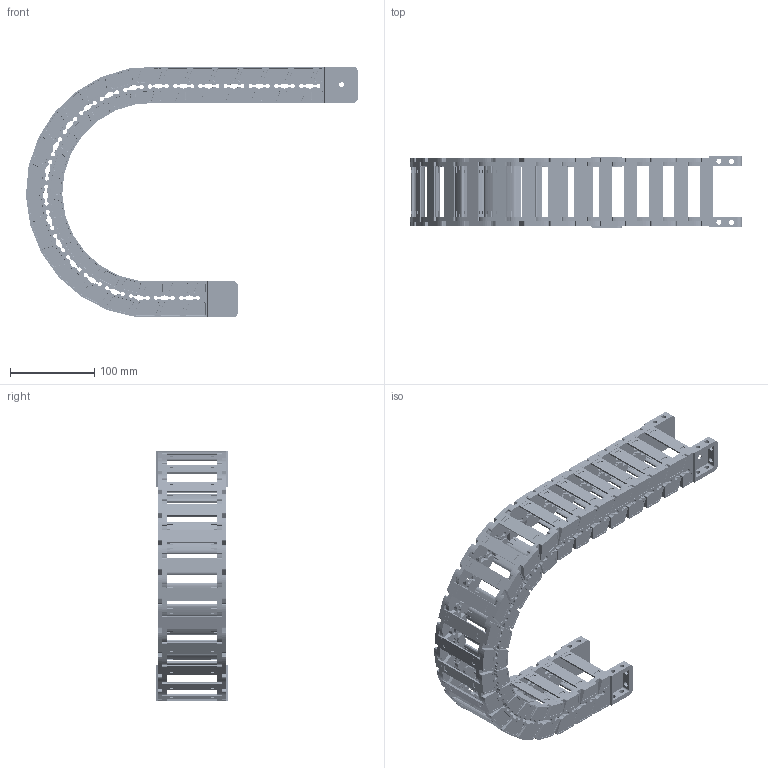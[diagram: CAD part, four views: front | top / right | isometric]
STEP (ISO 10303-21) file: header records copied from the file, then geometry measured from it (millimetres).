
FILE_DESCRIPTION((''),'2;1');
FILE_NAME('JY-35X60-R125_ASM','2025-01-05T19:43:11',('admin'),(''),'CREO PARAMETRIC BY PTC INC, 2021023','CREO PARAMETRIC BY PTC INC, 2021023','');
FILE_SCHEMA(('CONFIG_CONTROL_DESIGN'));
Length unit declared in the file: millimetre
Products named in the file (11): 35XL-L; YP; 35XL-R; ASM0001_ASM; 35-LTT-A-L; 35-LTT-A-R; 35XL-LTT-A_ASM; 35-LTT-B-L; 35-LTT-B-R; 35XL-LTT-B_ASM; JY-35X60-R125_ASM
Assembly tree (35 placements, depth 3):
  JY-35X60-R125_ASM
    ASM0001_ASM  x21
      35XL-L
      YP
      35XL-R
    35XL-LTT-A_ASM
      35-LTT-A-L
      YP  x2
      35-LTT-A-R
    35XL-LTT-B_ASM
      35-LTT-B-L
      YP  x2
      35-LTT-B-R
Bounding box: 395.09 x 84.5 x 298.23 mm (x, y, z)
Volume: 634142.9 mm3; surface area: 375766.5 mm2
Topology: 92 solids, 92 shells, 7504 faces, 22500 edges, 15188 vertices
Faces by surface type: plane 4246, cylinder 2466, cone 484, extrusion 176, bspline 132
Entity records: 27890 total; most frequent: CARTESIAN_POINT 6168, ORIENTED_EDGE 4640, DIRECTION 4365, EDGE_CURVE 2320, VERTEX_POINT 1568, AXIS2_PLACEMENT_3D 1474, VECTOR 1417, LINE 1401
